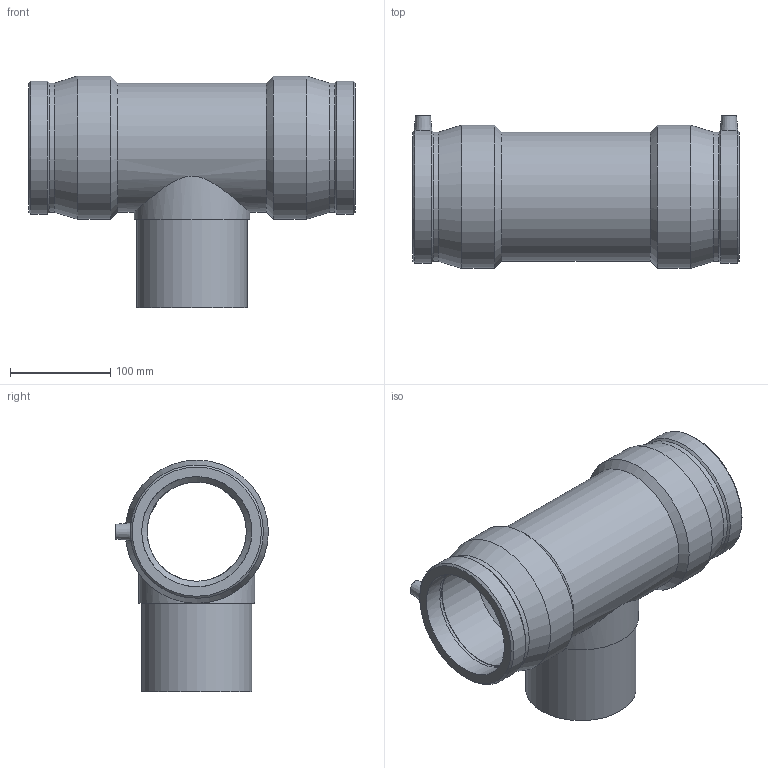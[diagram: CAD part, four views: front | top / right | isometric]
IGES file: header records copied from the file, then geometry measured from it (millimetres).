
Global section: file name: 490404110.ipt; native system: Autodesk Inventor 2015; preprocessor: unknown; author: KIM; date: 20171106.093615; units: millimetre
Bounding box: 326 x 152.5 x 231.5 mm (x, y, z)
Volume: 2082540.3 mm3; surface area: 317902.1 mm2
Topology: 1 solids, 1 shells, 47 faces, 107 edges, 70 vertices
Faces by surface type: plane 12, revolution 12, cone 12, cylinder 11
Full cylindrical faces by diameter (mm): 4 x2, 110 x1, 115.5 x1, 128.7 x1, 129 x2, 143 x2
